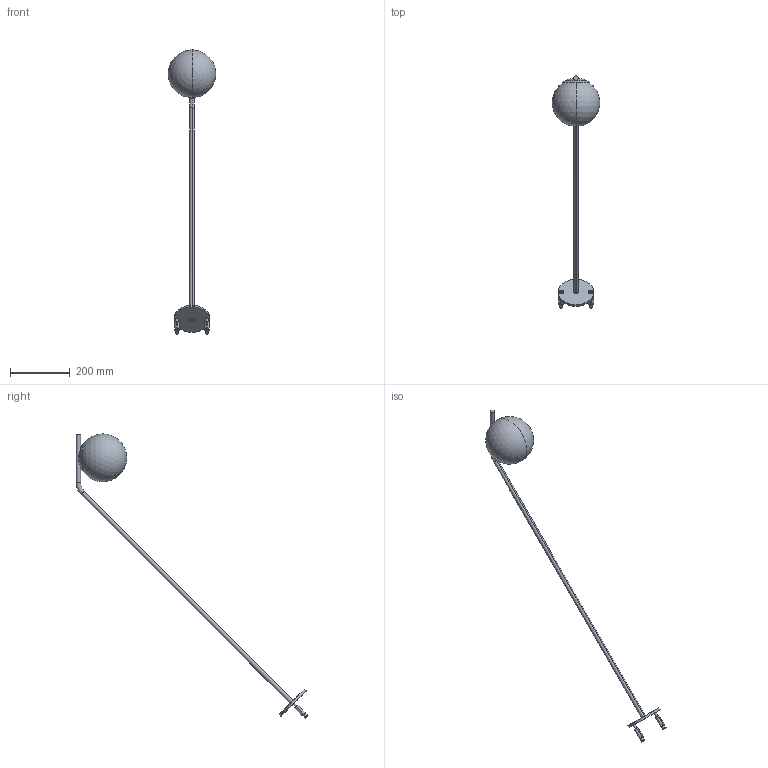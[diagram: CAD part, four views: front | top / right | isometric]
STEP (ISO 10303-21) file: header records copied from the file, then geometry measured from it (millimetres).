
FILE_DESCRIPTION((''),'2;1');
FILE_NAME('PIANTANA_BOLLARD_1200_SW0001','2026-02-03T16:56:47',('Piccioli'),(''),'CREO PARAMETRIC BY PTC INC, 2025010','CREO PARAMETRIC BY PTC INC, 2025010','');
FILE_SCHEMA(('CONFIG_CONTROL_DESIGN'));
Length unit declared in the file: millimetre
Products named in the file (1): PIANTANA_BOLLARD_1200_SW0001
Bounding box: 159.64 x 775 x 950.18 mm (x, y, z)
Surface area: 170198.5 mm2 (no closed solid volume)
Topology: 0 solids, 14 shells, 78 faces, 287 edges, 215 vertices
Faces by surface type: cylinder 28, plane 24, cone 13, torus 7, sphere 6
Entity records: 4262 total; most frequent: CARTESIAN_POINT 1795, DIRECTION 540, ORIENTED_EDGE 402, EDGE_CURVE 285, VERTEX_POINT 215, AXIS2_PLACEMENT_3D 209, CIRCLE 131, VECTOR 122
